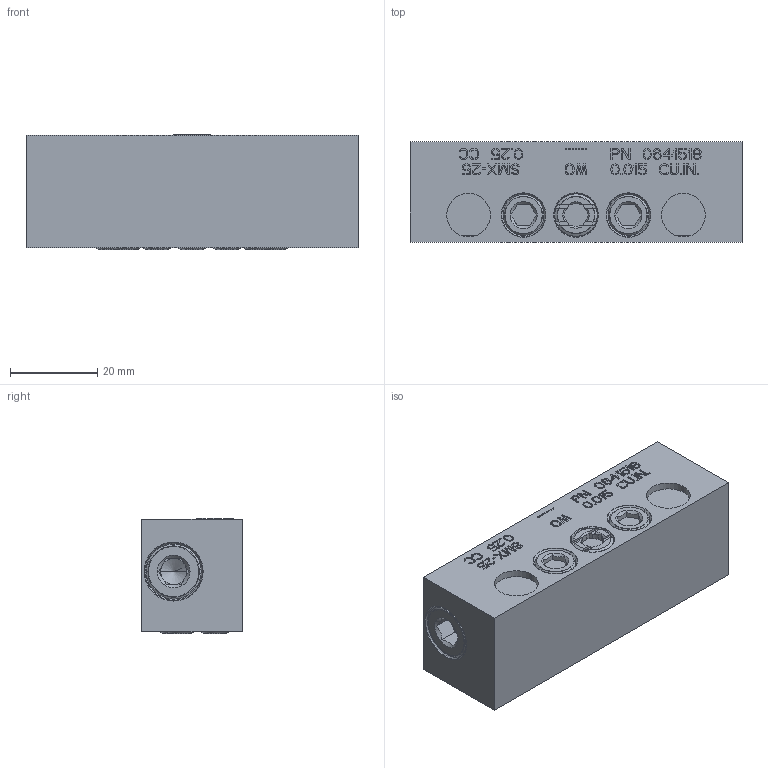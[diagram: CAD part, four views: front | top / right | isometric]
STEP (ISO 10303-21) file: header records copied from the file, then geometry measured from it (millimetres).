
FILE_DESCRIPTION((''),'2;1');
FILE_NAME('0641518_SMX_25','2023-07-21T09:43:34',('pietro.masciave'),(''),'CREO PARAMETRIC BY PTC INC, 2022281','CREO PARAMETRIC BY PTC INC, 2022281','');
FILE_SCHEMA(('CONFIG_CONTROL_DESIGN'));
Length unit declared in the file: millimetre
Products named in the file (1): 0641518_SMX_25
Bounding box: 76 x 23 x 26.33 mm (x, y, z)
Volume: 44006.2 mm3; surface area: 12661.1 mm2
Topology: 1 solids, 14 shells, 1275 faces, 3518 edges, 2337 vertices
Faces by surface type: plane 1099, cylinder 110, cone 44, torus 22
Entity records: 41224 total; most frequent: CARTESIAN_POINT 8456, ORIENTED_EDGE 6988, DIRECTION 6347, EDGE_CURVE 3514, VECTOR 3079, LINE 3079, VERTEX_POINT 2337, AXIS2_PLACEMENT_3D 1634
